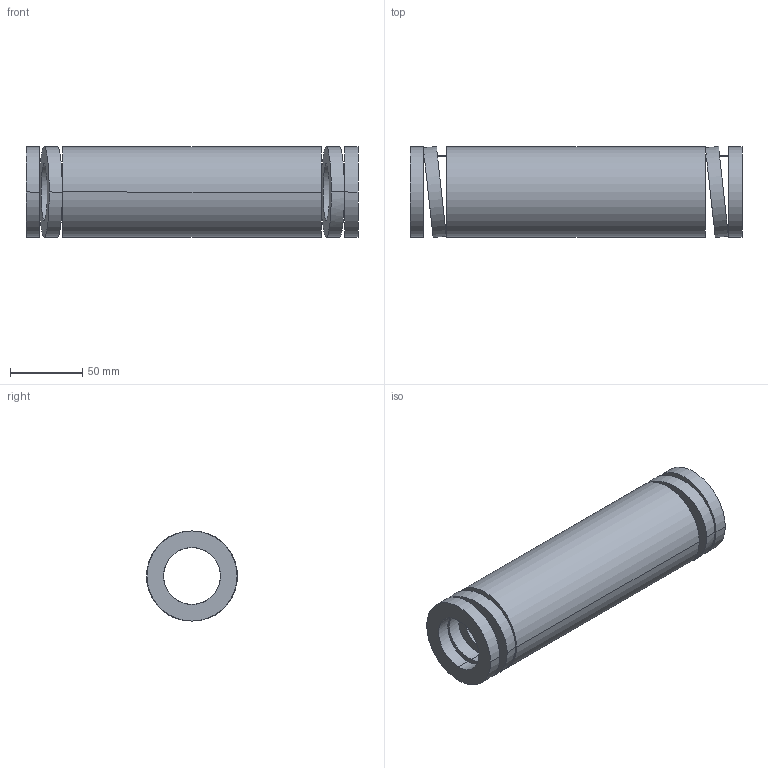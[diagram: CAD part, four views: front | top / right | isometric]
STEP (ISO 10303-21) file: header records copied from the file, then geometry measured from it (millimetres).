
FILE_DESCRIPTION(('CATIA V5 STEP Exchange'),'2;1');
FILE_NAME('C:\Users\Utente\Desktop\IO LAVORO\3D X SITO CF\X SITO\3D files 392B\392-B63-229.stp','2021-08-13T11:43:43+00:00',('none'),('none'),'CATIA Version 5 Release 20 GA (IN-10)','CATIA V5 STEP AP203','none');
FILE_SCHEMA(('CONFIG_CONTROL_DESIGN'));
Length unit declared in the file: millimetre
Products named in the file (1): 392-B63-229
Bounding box: 229 x 62.82 x 62.2 mm (x, y, z)
Volume: 393261.3 mm3; surface area: 86726.4 mm2
Topology: 1 solids, 1 shells, 38 faces, 92 edges, 64 vertices
Faces by surface type: cylinder 28, plane 10
Entity records: 1566 total; most frequent: CARTESIAN_POINT 677, ORIENTED_EDGE 184, DIRECTION 129, EDGE_CURVE 92, AXIS2_PLACEMENT_3D 64, VERTEX_POINT 64, EDGE_LOOP 56, B_SPLINE_CURVE_WITH_KNOTS 39
